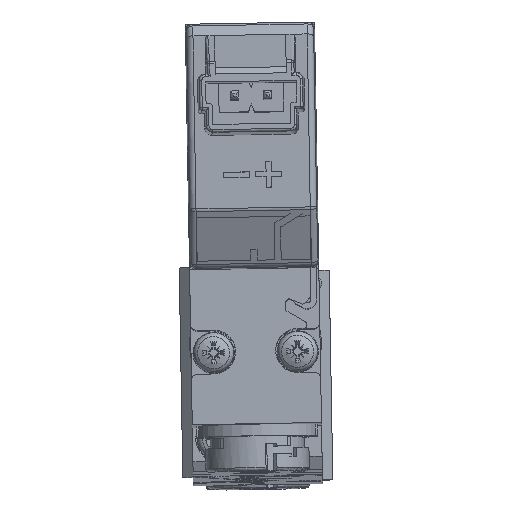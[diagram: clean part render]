
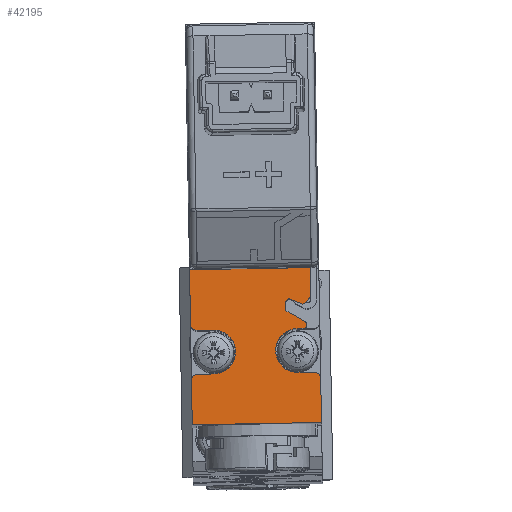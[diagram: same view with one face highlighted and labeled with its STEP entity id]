
A CAD part, left-side view. The second image highlights one B-rep face of the part: STEP entity #42195.
In plain terms, the highlighted planar face has unit normal (-1, 0, 0.017).
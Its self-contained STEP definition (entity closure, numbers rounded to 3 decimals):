
#2228=PLANE('',#45251);
#4380=LINE('',#69785,#7710);
#4382=LINE('',#69789,#7712);
#4384=LINE('',#69793,#7714);
#4386=LINE('',#69797,#7716);
#4390=LINE('',#69808,#7720);
#4392=LINE('',#69812,#7722);
#4406=LINE('',#69841,#7736);
#4409=LINE('',#69846,#7739);
#4422=LINE('',#69920,#7752);
#4423=LINE('',#69924,#7753);
#4424=LINE('',#69928,#7754);
#4425=LINE('',#69931,#7755);
#4426=LINE('',#69933,#7756);
#4427=LINE('',#69937,#7757);
#4428=LINE('',#69940,#7758);
#7710=VECTOR('',#52017,1.68);
#7712=VECTOR('',#52021,0.7);
#7714=VECTOR('',#52025,0.313);
#7716=VECTOR('',#52029,1.183);
#7720=VECTOR('',#52041,0.611);
#7722=VECTOR('',#52045,2.254);
#7736=VECTOR('',#52075,4.2);
#7739=VECTOR('',#52078,3.4);
#7752=VECTOR('',#52153,9.35);
#7753=VECTOR('',#52156,1.25);
#7754=VECTOR('',#52159,1.25);
#7755=VECTOR('',#52162,10.);
#7756=VECTOR('',#52163,3.4);
#7757=VECTOR('',#52166,1.25);
#7758=VECTOR('',#52169,0.455);
#10643=FACE_OUTER_BOUND('',#13177,.T.);
#13177=EDGE_LOOP('',(#31442,#31443,#31444,#31445,#31446,#31447,#31448,#31449,
#31450,#31451,#31452,#31453,#31454,#31455,#31456,#31457,#31458,#31459,#31460,
#31461,#31462,#31463));
#15663=CIRCLE('',#45211,1.);
#15684=CIRCLE('',#45252,0.3);
#15685=CIRCLE('',#45253,0.5);
#15686=CIRCLE('',#45254,1.7);
#15687=CIRCLE('',#45255,0.5);
#15688=CIRCLE('',#45256,0.5);
#15689=CIRCLE('',#45257,1.7);
#18817=VERTEX_POINT('',#69781);
#18818=VERTEX_POINT('',#69783);
#18819=VERTEX_POINT('',#69787);
#18820=VERTEX_POINT('',#69791);
#18821=VERTEX_POINT('',#69795);
#18823=VERTEX_POINT('',#69801);
#18824=VERTEX_POINT('',#69806);
#18825=VERTEX_POINT('',#69810);
#18831=VERTEX_POINT('',#69838);
#18832=VERTEX_POINT('',#69840);
#18833=VERTEX_POINT('',#69843);
#18834=VERTEX_POINT('',#69845);
#18864=VERTEX_POINT('',#69918);
#18865=VERTEX_POINT('',#69921);
#18866=VERTEX_POINT('',#69923);
#18867=VERTEX_POINT('',#69925);
#18868=VERTEX_POINT('',#69927);
#18869=VERTEX_POINT('',#69930);
#18870=VERTEX_POINT('',#69932);
#18871=VERTEX_POINT('',#69934);
#18872=VERTEX_POINT('',#69936);
#18873=VERTEX_POINT('',#69938);
#23427=EDGE_CURVE('',#18817,#18818,#4380,.T.);
#23429=EDGE_CURVE('',#18818,#18819,#4382,.T.);
#23431=EDGE_CURVE('',#18819,#18820,#4384,.T.);
#23433=EDGE_CURVE('',#18820,#18821,#4386,.T.);
#23436=EDGE_CURVE('',#18821,#18823,#15663,.T.);
#23439=EDGE_CURVE('',#18823,#18824,#4390,.T.);
#23441=EDGE_CURVE('',#18824,#18825,#4392,.T.);
#23456=EDGE_CURVE('',#18832,#18831,#4406,.T.);
#23459=EDGE_CURVE('',#18834,#18833,#4409,.T.);
#23491=EDGE_CURVE('',#18817,#18864,#15684,.T.);
#23492=EDGE_CURVE('',#18825,#18832,#4422,.T.);
#23493=EDGE_CURVE('',#18831,#18865,#15685,.T.);
#23494=EDGE_CURVE('',#18865,#18866,#4423,.T.);
#23495=EDGE_CURVE('',#18866,#18867,#15686,.T.);
#23496=EDGE_CURVE('',#18867,#18868,#4424,.T.);
#23497=EDGE_CURVE('',#18868,#18834,#15687,.T.);
#23498=EDGE_CURVE('',#18833,#18869,#4425,.T.);
#23499=EDGE_CURVE('',#18869,#18870,#4426,.T.);
#23500=EDGE_CURVE('',#18870,#18871,#15688,.T.);
#23501=EDGE_CURVE('',#18871,#18872,#4427,.T.);
#23502=EDGE_CURVE('',#18872,#18873,#15689,.T.);
#23503=EDGE_CURVE('',#18873,#18864,#4428,.T.);
#31442=ORIENTED_EDGE('',*,*,#23491,.F.);
#31443=ORIENTED_EDGE('',*,*,#23427,.T.);
#31444=ORIENTED_EDGE('',*,*,#23429,.T.);
#31445=ORIENTED_EDGE('',*,*,#23431,.T.);
#31446=ORIENTED_EDGE('',*,*,#23433,.T.);
#31447=ORIENTED_EDGE('',*,*,#23436,.T.);
#31448=ORIENTED_EDGE('',*,*,#23439,.T.);
#31449=ORIENTED_EDGE('',*,*,#23441,.T.);
#31450=ORIENTED_EDGE('',*,*,#23492,.T.);
#31451=ORIENTED_EDGE('',*,*,#23456,.T.);
#31452=ORIENTED_EDGE('',*,*,#23493,.T.);
#31453=ORIENTED_EDGE('',*,*,#23494,.T.);
#31454=ORIENTED_EDGE('',*,*,#23495,.T.);
#31455=ORIENTED_EDGE('',*,*,#23496,.T.);
#31456=ORIENTED_EDGE('',*,*,#23497,.T.);
#31457=ORIENTED_EDGE('',*,*,#23459,.T.);
#31458=ORIENTED_EDGE('',*,*,#23498,.T.);
#31459=ORIENTED_EDGE('',*,*,#23499,.T.);
#31460=ORIENTED_EDGE('',*,*,#23500,.T.);
#31461=ORIENTED_EDGE('',*,*,#23501,.T.);
#31462=ORIENTED_EDGE('',*,*,#23502,.T.);
#31463=ORIENTED_EDGE('',*,*,#23503,.T.);
#42195=ADVANCED_FACE('',(#10643),#2228,.T.);
#45211=AXIS2_PLACEMENT_3D('',#69803,#52035,#52036);
#45251=AXIS2_PLACEMENT_3D('',#69917,#52149,#52150);
#45252=AXIS2_PLACEMENT_3D('',#69919,#52151,#52152);
#45253=AXIS2_PLACEMENT_3D('',#69922,#52154,#52155);
#45254=AXIS2_PLACEMENT_3D('',#69926,#52157,#52158);
#45255=AXIS2_PLACEMENT_3D('',#69929,#52160,#52161);
#45256=AXIS2_PLACEMENT_3D('',#69935,#52164,#52165);
#45257=AXIS2_PLACEMENT_3D('',#69939,#52167,#52168);
#52017=DIRECTION('',(0.009,0.875,0.485));
#52021=DIRECTION('',(0.017,0.017,1.));
#52025=DIRECTION('',(0.013,-0.625,0.78));
#52029=DIRECTION('',(-0.007,-0.927,-0.375));
#52035=DIRECTION('center_axis',(-1.,0.,
0.017));
#52036=DIRECTION('ref_axis',(0.016,0.405,0.914));
#52041=DIRECTION('',(0.012,-0.695,0.719));
#52045=DIRECTION('',(0.017,0.017,1.));
#52075=DIRECTION('',(-0.017,-0.017,-1.));
#52078=DIRECTION('',(-0.017,-0.017,-1.));
#52149=DIRECTION('center_axis',(-1.,0.,
0.017));
#52150=DIRECTION('ref_axis',(0.,-1.,0.017));
#52151=DIRECTION('center_axis',(1.,0.,
-0.017));
#52152=DIRECTION('ref_axis',(-0.017,-0.017,-1.));
#52153=DIRECTION('',(0.,1.,-0.017));
#52154=DIRECTION('center_axis',(-1.,0.,
0.017));
#52155=DIRECTION('ref_axis',(0.,-1.,0.017));
#52156=DIRECTION('',(0.,-1.,0.017));
#52157=DIRECTION('center_axis',(1.,0.,
-0.017));
#52158=DIRECTION('ref_axis',(-0.017,-0.017,-1.));
#52159=DIRECTION('',(0.,1.,-0.017));
#52160=DIRECTION('center_axis',(-1.,0.,
0.017));
#52161=DIRECTION('ref_axis',(-0.017,-0.017,-1.));
#52162=DIRECTION('',(0.,-1.,0.017));
#52163=DIRECTION('',(0.017,0.017,1.));
#52164=DIRECTION('center_axis',(-1.,0.,
0.017));
#52165=DIRECTION('ref_axis',(0.,1.,-0.017));
#52166=DIRECTION('',(0.,1.,-0.017));
#52167=DIRECTION('center_axis',(1.,0.,
-0.017));
#52168=DIRECTION('ref_axis',(0.017,0.017,1.));
#52169=DIRECTION('',(0.,-1.,0.017));
#69781=CARTESIAN_POINT('',(-49.071,-3.818,2.183));
#69783=CARTESIAN_POINT('',(-49.056,-2.348,2.998));
#69785=CARTESIAN_POINT('',(-49.059,-2.659,2.826));
#69787=CARTESIAN_POINT('',(-49.044,-2.336,3.698));
#69789=CARTESIAN_POINT('',(-49.073,-2.365,1.998));
#69791=CARTESIAN_POINT('',(-49.039,-2.532,3.942));
#69793=CARTESIAN_POINT('',(-49.069,-1.137,2.201));
#69795=CARTESIAN_POINT('',(-49.048,-3.628,3.499));
#69797=CARTESIAN_POINT('',(-49.04,-2.63,3.902));
#69801=CARTESIAN_POINT('',(-49.045,-3.855,3.638));
#69803=CARTESIAN_POINT('Origin',(-49.031,-3.223,4.413));
#69806=CARTESIAN_POINT('',(-49.038,-4.279,4.078));
#69808=CARTESIAN_POINT('',(-49.073,-2.291,2.019));
#69810=CARTESIAN_POINT('',(-48.998,-4.24,6.331));
#69812=CARTESIAN_POINT('',(-49.051,-4.293,3.332));
#69838=CARTESIAN_POINT('',(-49.072,5.035,1.969));
#69840=CARTESIAN_POINT('',(-48.998,5.108,6.168));
#69841=CARTESIAN_POINT('',(-48.998,5.108,6.168));
#69843=CARTESIAN_POINT('',(-49.208,4.899,-5.828));
#69845=CARTESIAN_POINT('',(-49.148,4.958,-2.43));
#69846=CARTESIAN_POINT('',(-48.998,5.108,6.168));
#69917=CARTESIAN_POINT('Origin',(-49.103,0.004,
0.257));
#69918=CARTESIAN_POINT('',(-49.08,-3.678,1.621));
#69919=CARTESIAN_POINT('Origin',(-49.075,-3.672,1.921));
#69920=CARTESIAN_POINT('',(-48.998,-4.89,6.342));
#69921=CARTESIAN_POINT('',(-49.08,4.526,1.478));
#69922=CARTESIAN_POINT('Origin',(-49.072,4.535,1.978));
#69923=CARTESIAN_POINT('',(-49.08,3.277,1.5));
#69924=CARTESIAN_POINT('',(-49.08,1.652,1.528));
#69925=CARTESIAN_POINT('',(-49.14,3.217,-1.899));
#69926=CARTESIAN_POINT('Origin',(-49.11,3.247,-0.2));
#69927=CARTESIAN_POINT('',(-49.14,4.467,-1.921));
#69928=CARTESIAN_POINT('',(-49.14,2.217,-1.882));
#69929=CARTESIAN_POINT('Origin',(-49.148,4.458,-2.421));
#69930=CARTESIAN_POINT('',(-49.208,-5.099,-5.654));
#69931=CARTESIAN_POINT('',(-49.208,4.899,-5.828));
#69932=CARTESIAN_POINT('',(-49.148,-5.04,-2.255));
#69933=CARTESIAN_POINT('',(-49.208,-5.099,-5.654));
#69934=CARTESIAN_POINT('',(-49.14,-4.531,-1.764));
#69935=CARTESIAN_POINT('Origin',(-49.148,-4.54,-2.264));
#69936=CARTESIAN_POINT('',(-49.14,-3.282,-1.786));
#69937=CARTESIAN_POINT('',(-49.14,-1.657,-1.814));
#69938=CARTESIAN_POINT('',(-49.08,-3.222,1.613));
#69939=CARTESIAN_POINT('Origin',(-49.11,-3.252,-0.086));
#69940=CARTESIAN_POINT('',(-49.08,-2.222,1.596));
